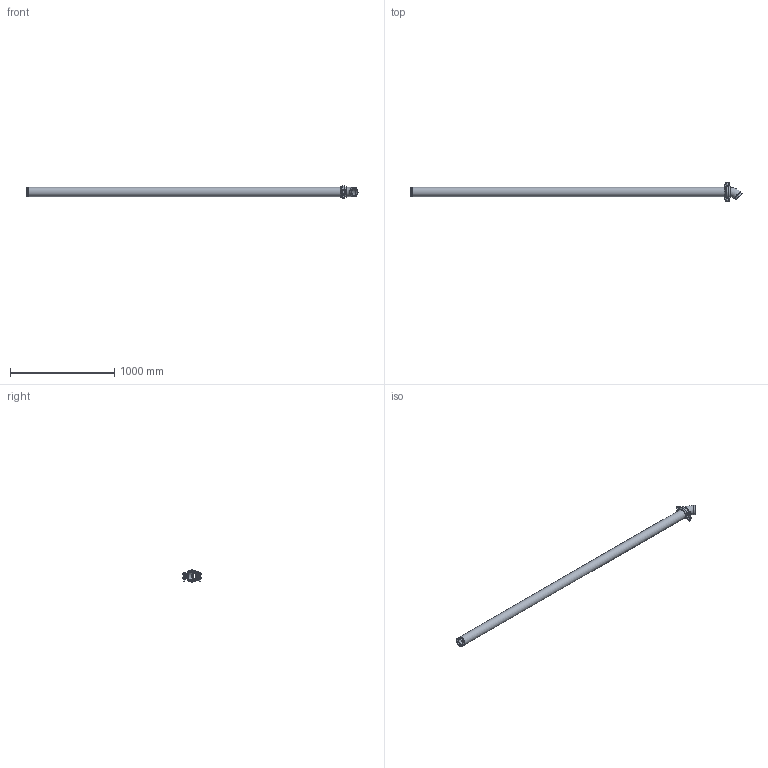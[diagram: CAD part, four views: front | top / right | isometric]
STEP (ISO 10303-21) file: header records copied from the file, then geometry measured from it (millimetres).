
FILE_DESCRIPTION(/* description */ ('VIC LONG RUN FITTING No R14 (OGS)','CAx-IF Rec.Pracs.---Representation and Presentation of Product Manufacturing Information (PMI)---4.0---2014-10-13'),/* implementation_level */ '2;1');
FILE_NAME(/* name */ 'C:\Users\Vjadhav\AppData\Roaming\Autodesk\ApplicationPlugins\Back Up\Victaulic_IPS_Long Run Fittings_No R14 (OGS)\Victaulic_IPS_Long Run Fittings_No R14 (OGS)_3 (80).stp',/* time_stamp */ '2020-10-13T18:28:37+06:00',/* author */ ('Vjadhav'),/* organization */ ('Victaulic'),/* preprocessor_version */ 'ST-DEVELOPER v17.2',/* originating_system */ 'Autodesk Inventor 2019',/* authorisation */ '');
FILE_SCHEMA (('AP242_MANAGED_MODEL_BASED_3D_ENGINEERING_MIM_LF { 1 0 10303 442 1 1 4 }'));
Length unit declared in the file: inch
Products named in the file (4): R14-03.0; 011-03.0; 107N-03.0; Pipe_R13-03.0
Assembly tree (3 placements, depth 2):
  R14-03.0
    011-03.0
    107N-03.0
    Pipe_R13-03.0
Bounding box: 3191.64 x 190.5 x 117.6 mm (x, y, z)
Volume: 4867625.1 mm3; surface area: 1738873 mm2
Topology: 3 solids, 3 shells, 149 faces, 387 edges, 260 vertices
Faces by surface type: plane 62, cylinder 57, bspline 18, torus 6, cone 4, sphere 2
Full cylindrical faces by diameter (mm): 12.7 x4, 22.225 x2, 76.2 x1, 77.927 x3, 84.938 x4, 88.9 x7
Entity records: 5508 total; most frequent: CARTESIAN_POINT 1435, DIRECTION 821, ORIENTED_EDGE 774, EDGE_CURVE 387, AXIS2_PLACEMENT_3D 324, VERTEX_POINT 260, EDGE_LOOP 175, LINE 173
